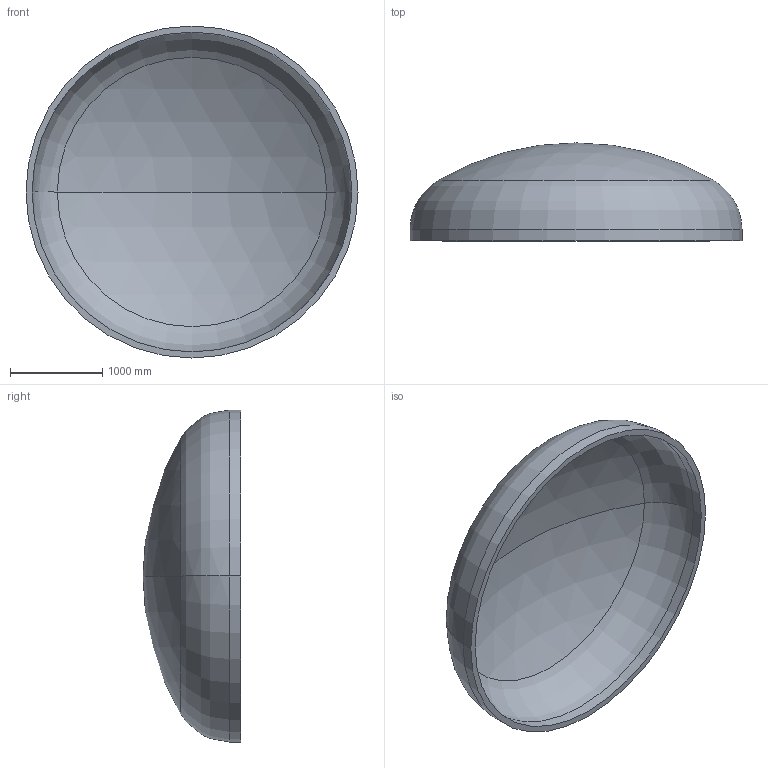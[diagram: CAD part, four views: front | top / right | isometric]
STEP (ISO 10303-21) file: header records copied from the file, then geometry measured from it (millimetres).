
FILE_DESCRIPTION (( 'STEP AP203' ), '1' );
FILE_NAME ('DIN 28013 Korbbogenform_-_Boden DIN 28013 - 3600 x 120 - I - s=66.step', '2016-07-01T20:36:55', ( '' ), ( '' ), 'SwSTEP 2.0', 'SolidWorks 2013', '' );
FILE_SCHEMA (( 'CONFIG_CONTROL_DESIGN' ));
Length unit declared in the file: millimetre
Products named in the file (1): DIN 28013 Korbbogenform_-_Boden DIN 28013 - 3600 x 120 - I - s=66
Bounding box: 3600 x 1062.11 x 3600 mm (x, y, z)
Volume: 996343690.1 mm3; surface area: 30934103.3 mm2
Topology: 1 solids, 1 shells, 13 faces, 24 edges, 14 vertices
Faces by surface type: torus 4, cylinder 4, sphere 4, plane 1
Entity records: 407 total; most frequent: DIRECTION 72, CARTESIAN_POINT 52, ORIENTED_EDGE 48, AXIS2_PLACEMENT_3D 34, EDGE_CURVE 24, CIRCLE 20, VERTEX_POINT 14, EDGE_LOOP 14
